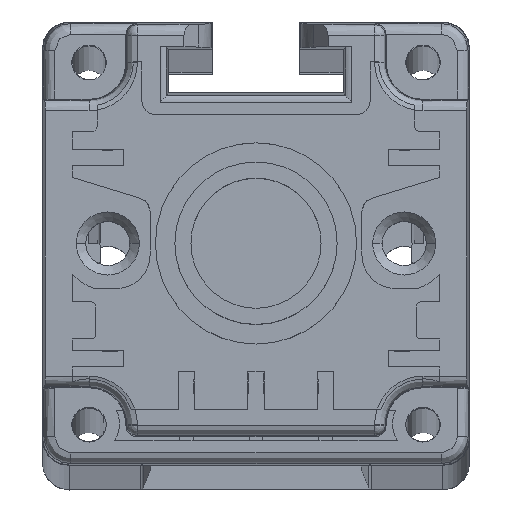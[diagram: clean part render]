
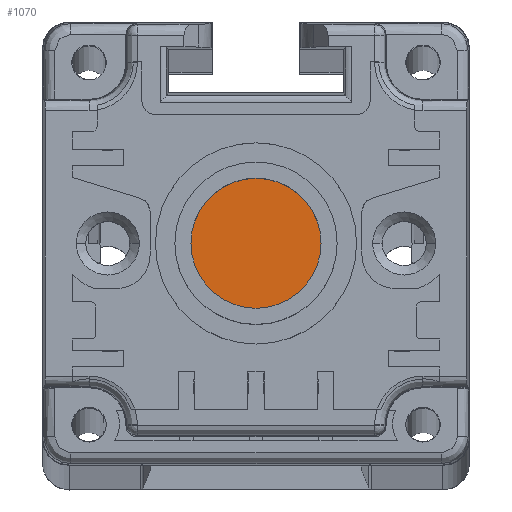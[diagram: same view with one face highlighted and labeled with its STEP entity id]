
A CAD part, top view. The second image highlights one B-rep face of the part: STEP entity #1070.
In plain terms, the highlighted planar face has unit normal (0, 0, 1).
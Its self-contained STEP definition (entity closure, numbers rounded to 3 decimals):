
#1070=ADVANCED_FACE('',(#2034),#1539,.T.);
#1539=PLANE('',#13341);
#2034=FACE_OUTER_BOUND('',#2672,.T.);
#2672=EDGE_LOOP('',(#7402,#7403));
#7402=ORIENTED_EDGE('',*,*,#11440,.T.);
#7403=ORIENTED_EDGE('',*,*,#11438,.T.);
#9851=VERTEX_POINT('',#19946);
#9852=VERTEX_POINT('',#19948);
#11438=EDGE_CURVE('',#9852,#9851,#12517,.T.);
#11440=EDGE_CURVE('',#9851,#9852,#12518,.T.);
#12517=CIRCLE('',#13337,4.85);
#12518=CIRCLE('',#13339,4.85);
#13337=AXIS2_PLACEMENT_3D('',#19947,#15875,#15876);
#13339=AXIS2_PLACEMENT_3D('',#19951,#15880,#15881);
#13341=AXIS2_PLACEMENT_3D('',#19953,#15884,#15885);
#15875=DIRECTION('',(0.,0.,1.));
#15876=DIRECTION('',(1.,0.,0.));
#15880=DIRECTION('',(0.,0.,1.));
#15881=DIRECTION('',(-1.,0.,0.));
#15884=DIRECTION('',(0.,0.,1.));
#15885=DIRECTION('',(1.,0.,0.));
#19946=CARTESIAN_POINT('',(20.025,26.865,16.));
#19947=CARTESIAN_POINT('',(24.875,26.865,16.));
#19948=CARTESIAN_POINT('',(29.725,26.865,16.));
#19951=CARTESIAN_POINT('',(24.875,26.865,16.));
#19953=CARTESIAN_POINT('',(0.,0.,16.));
